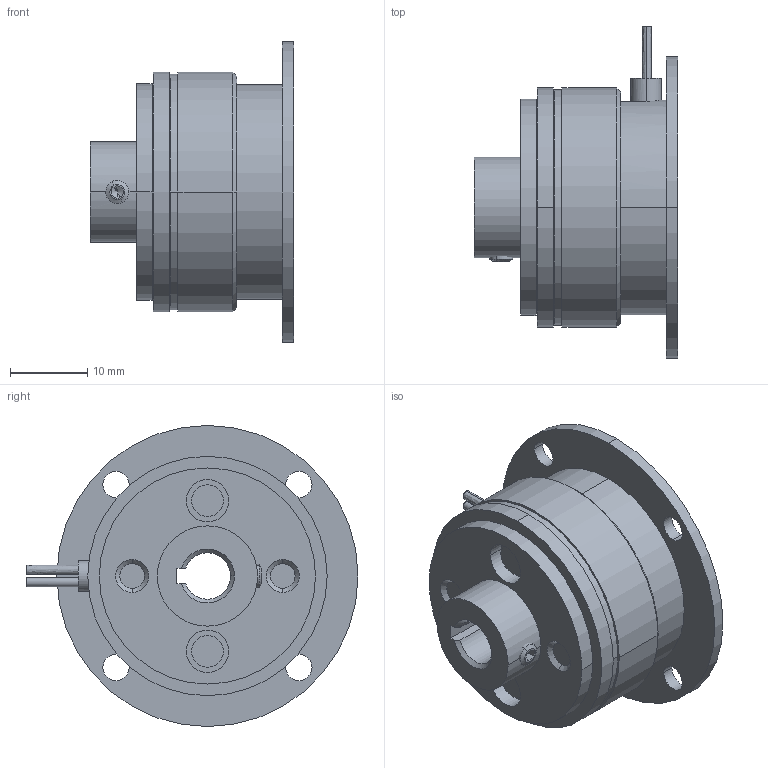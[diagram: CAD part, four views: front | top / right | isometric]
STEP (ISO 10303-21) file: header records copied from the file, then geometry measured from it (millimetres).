
FILE_DESCRIPTION((''),'2;1');
FILE_NAME('G:\Konstruktion\Datenkonvertierung\step\14.100.02.111.stp','2004-01-30T08:07:48',('schöttelndreier'),(''),'Autodesk Inventor 8','Autodesk Inventor 8','');
FILE_SCHEMA(('AUTOMOTIVE_DESIGN { 1 0 10303 214 1 1 1 1 }'));
Length unit declared in the file: millimetre
Products named in the file (18): 14.100.02.111; 14.100.02.100-001 dxf; 14.100.02.991-001 dxf; Abdeck; Spule_02 dxf; 14.100.02.010-001 dxf; 14.100.02.992-001 dxf; 14.100.02.992-300 dxf; Spritzmasse; Reibbelag_02 dxf; 14.100.02.001-001; 14.100.02.003-001; 14.100.02.993-001; 30.4.101-142; Niete; 14.100.02.993-200; Niete2; DIN 916  (Regelgewinde) M3  x  4
Assembly tree (19 placements, depth 4):
  14.100.02.111
    14.100.02.100-001 dxf
      14.100.02.991-001 dxf
      Abdeck
      Spule_02 dxf
    14.100.02.010-001 dxf
      14.100.02.992-001 dxf
      14.100.02.992-300 dxf
      Spritzmasse
      Reibbelag_02 dxf
    14.100.02.001-001
      14.100.02.003-001
        14.100.02.993-001
        30.4.101-142
        Niete  x2
      14.100.02.993-200
      Niete2  x2
      DIN 916  (Regelgewinde) M3  x  4
Bounding box: 26.35 x 43 x 39 mm (x, y, z)
Volume: 13105 mm3; surface area: 16933.7 mm2
Topology: 15 solids, 15 shells, 236 faces, 535 edges, 340 vertices
Faces by surface type: cylinder 120, plane 70, cone 39, bspline 5, torus 2
Entity records: 7126 total; most frequent: CARTESIAN_POINT 1427, DIRECTION 1229, ORIENTED_EDGE 998, AXIS2_PLACEMENT_3D 513, EDGE_CURVE 499, VERTEX_POINT 320, EDGE_LOOP 285, CIRCLE 263
